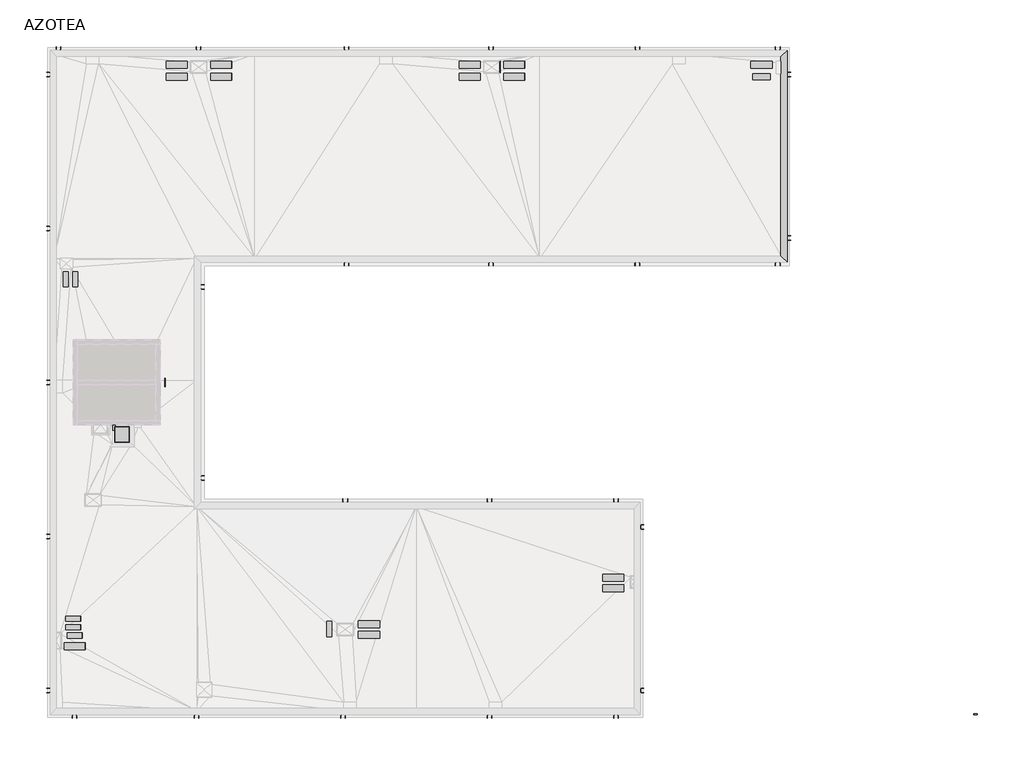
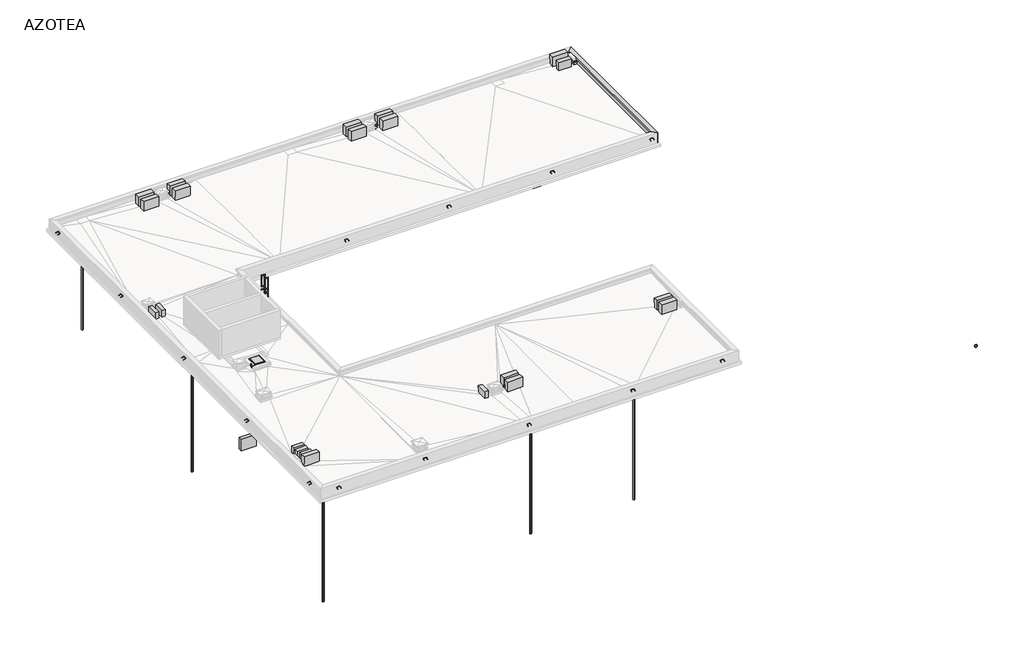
# One storey, part 6 of 6: 31 light fixtures, 25 proxies, 7 pipe segments, 5 beams, 3 furniture elements.
"""IFC4 building model written with IfcOpenShell, lengths in millimetres."""

from ifc_helpers import new_model, si_unit, point, frame, frame_2d, origin, place, context, project, spatial, circle_curve, trimmed, segment, composite_curve, outline, extrude, faceted_brep, transform, mapped, element, save
from components import electrical_equipment_c3a30a10, aa_unidad_exterior_12_18_24_v2_12000btu_c82194b8, aa_unidad_exterior_12_18_24_v2_18000btu_77353a8c, aa_unidad_exterior_12_18_24_v2_24000btu_2b071aac, pca1_20x80x15_228724ed, tc_50x70x12_88f3f4f6, tg_100x80x25_6bbc99c6, furniture_71a9488f, furniture_b6540da9, furniture_ba2fe2c0, light_fixture_f36965a0, light_fixture_92817a54, l209_cara_l209_cara_4ba3335d

model = new_model("IFC4")

# Units and contexts
model_context = context("Model", 3, world=origin())
ifc_project = project(units=[si_unit("LENGTHUNIT", "METRE", prefix="MILLI")], contexts=[model_context])

# Site, building, storey
site = spatial("IfcSite", under=ifc_project)
building = spatial("IfcBuilding", under=site)
storey = spatial("IfcBuildingStorey", under=building, Name="AZOTEA", Elevation=6570.0)

# Beams
placement = place(None, origin())
element("IfcBeam", 1, ObjectType="ARES-I-HA-Viga con aleta-PET : Viga pretil-20x90-aleta10x10cm-PET", at=placement, inside=storey, context=model_context, shape_type="Brep", body=[
    faceted_brep([(37618.7173693, 31350.2304035, 7210.0), (37618.7173693, 21890.2304035, 7210.0), (37608.7173693, 21900.2304035, 7220.0), (37608.7173693, 31340.2304035, 7220.0), (37598.7173693, 21910.2304035, 7210.0), (37598.7173693, 31330.2304035, 7210.0), (37588.7173693, 21920.2304035, 7210.0), (37588.7173693, 30500.2304035, 7210.0), (37588.7173693, 31100.2304035, 7210.0), (37588.7173693, 31320.2304035, 7210.0), (37588.7173693, 21920.2304035, 7310.0), (37588.7173693, 30500.2304035, 7310.0), (37588.7173693, 31100.2304035, 7310.0), (37588.7173693, 31320.2304035, 7310.0), (37888.7173693, 21620.2304035, 7310.0), (37888.7173693, 31620.2304035, 7310.0), (37888.7173693, 21620.2304035, 6570.0), (37888.7173693, 21620.2304035, 6410.0), (37888.7173693, 21820.2304035, 6410.0), (37888.7173693, 24720.2304035, 6410.0), (37888.7173693, 25320.2304035, 6410.0), (37888.7173693, 31020.2304035, 6410.0), (37888.7173693, 31620.2304035, 6410.0), (37888.7173693, 31620.2304035, 6570.0), (37688.7173693, 21820.2304035, 6410.0), (37688.7173693, 24720.2304035, 6410.0), (37688.7173693, 24920.2304035, 6410.0), (37688.7173693, 25320.2304035, 6410.0), (37688.7173693, 30580.2304035, 6410.0), (37688.7173693, 30700.2304035, 6410.0), (37688.7173693, 30802.5304035, 6410.0), (37688.7173693, 30920.2304035, 6410.0), (37688.7173693, 31020.2304035, 6410.0), (37688.7173693, 31420.2304035, 6410.0), (37688.7173693, 21820.2304035, 7210.0), (37688.7173693, 31420.2304035, 7210.0), (37688.7173693, 31420.2304035, 6570.0), (37688.7173693, 21820.2304035, 6570.0)], [[[0, 1, 2, 3]], [[3, 2, 4, 5]], [[5, 4, 6, 7, 8, 9]], [[9, 8, 7, 6, 10, 11, 12, 13]], [[13, 12, 11, 10, 14, 15]], [[15, 14, 16, 17, 18, 19, 20, 21, 22, 23]], [[22, 21, 20, 19, 18, 17, 24, 25, 26, 27, 28, 29, 30, 31, 32, 33]], [[34, 35, 36, 33, 32, 31, 30, 29, 28, 27, 26, 25, 24, 37]], [[1, 0, 35, 34]], [[0, 3, 5, 9, 13, 15, 23, 22, 33, 36, 35]], [[1, 34, 37, 24, 17, 16, 14, 10, 6, 4, 2]]]),
])
element("IfcBeam", 2, ObjectType="ARES-I-HA-Viga con aleta-PET : Viga pretil-12x66cm-aleta7x7cm-PET", at=placement, inside=storey, context=model_context, shape_type="Brep", body=[
    faceted_brep([(24348.7173694, 30560.2304035, 7000.0), (24348.7173694, 31080.2304035, 7000.0), (24358.7173694, 31090.2304035, 7010.0), (24358.7173694, 30550.2304035, 7010.0), (24368.7173694, 31100.2304035, 7000.0), (24368.7173694, 30540.2304035, 7000.0), (24378.7173694, 31110.2304035, 7000.0), (24378.7173694, 30530.2304035, 7000.0), (24378.7173694, 31110.2304035, 7070.0), (24378.7173694, 30530.2304035, 7070.0), (24188.7173694, 30920.2304035, 7070.0), (24188.7173694, 30720.2304035, 7070.0), (24188.7173694, 30920.2304035, 6410.0), (24188.7173694, 30720.2304035, 6410.0), (24308.7173694, 31040.2304035, 6410.0), (24308.7173694, 30600.2304035, 6410.0), (24308.7173694, 31040.2304035, 6570.0), (24308.7173694, 31040.2304035, 7000.0), (24308.7173694, 30600.2304035, 7000.0), (24308.7173694, 30600.2304035, 6570.0)], [[[0, 1, 2, 3]], [[3, 2, 4, 5]], [[5, 4, 6, 7]], [[7, 6, 8, 9]], [[9, 8, 10, 11]], [[11, 10, 12, 13]], [[13, 12, 14, 15]], [[15, 14, 16, 17, 18, 19]], [[1, 0, 18, 17]], [[0, 3, 5, 7, 9, 11, 13, 15, 19, 18]], [[1, 17, 16, 14, 12, 10, 8, 6, 4, 2]]]),
])
element("IfcBeam", 3, ObjectType="ARES-I-HA-Viga con aleta-PET : Viga pretil-12x66cm-aleta7x7cm-PET", at=placement, inside=storey, context=model_context, shape_type="Brep", body=[
    faceted_brep([(37688.7173693, 30540.2304035, 7000.0), (37688.7173693, 30530.2304035, 7010.0), (37421.0173693, 30530.2304035, 7010.0), (37431.0173693, 30540.2304035, 7000.0), (37688.7173693, 30520.2304035, 7000.0), (37411.0173693, 30520.2304035, 7000.0), (37688.7173693, 30510.2304035, 7000.0), (37401.0173693, 30510.2304035, 7000.0), (37688.7173693, 30510.2304035, 7070.0), (37401.0173693, 30510.2304035, 7070.0), (37688.7173693, 30700.2304035, 7070.0), (37591.0173693, 30700.2304035, 7070.0), (37688.7173693, 30700.2304035, 6410.0), (37591.0173693, 30700.2304035, 6410.0), (37688.7173693, 30580.2304035, 6410.0), (37471.0173693, 30580.2304035, 6410.0), (37688.7173693, 30580.2304035, 6570.0), (37688.7173693, 30580.2304035, 7000.0), (37471.0173693, 30580.2304035, 7000.0), (37471.0173693, 30580.2304035, 6570.0)], [[[0, 1, 2, 3]], [[1, 4, 5, 2]], [[4, 6, 7, 5]], [[6, 8, 9, 7]], [[8, 10, 11, 9]], [[10, 12, 13, 11]], [[12, 14, 15, 13]], [[15, 14, 16, 17, 18, 19]], [[17, 0, 3, 18]], [[1, 0, 17, 16, 14, 12, 10, 8, 6, 4]], [[3, 2, 5, 7, 9, 11, 13, 15, 19, 18]]]),
])
element("IfcBeam", 4, ObjectType="ARES-I-HA-Viga con aleta-PET : Viga pretil-12x66cm-aleta7x7cm-PET", at=placement, inside=storey, context=model_context, shape_type="Brep", body=[
    faceted_brep([(37431.0173693, 31060.2304035, 7000.0), (37431.0173693, 30540.2304035, 7000.0), (37421.0173693, 30530.2304035, 7010.0), (37421.0173693, 31070.2304035, 7010.0), (37411.0173693, 30520.2304035, 7000.0), (37411.0173693, 31080.2304035, 7000.0), (37401.0173693, 30510.2304035, 7000.0), (37401.0173693, 31090.2304035, 7000.0), (37401.0173693, 30510.2304035, 7070.0), (37401.0173693, 31090.2304035, 7070.0), (37591.0173693, 30700.2304035, 7070.0), (37591.0173693, 30900.2304035, 7070.0), (37591.0173693, 30700.2304035, 6410.0), (37591.0173693, 30900.2304035, 6410.0), (37471.0173693, 30580.2304035, 6410.0), (37471.0173693, 30920.2304035, 6410.0), (37571.0173693, 30920.2304035, 6410.0), (37471.0173693, 30580.2304035, 7000.0), (37471.0173693, 31020.2304035, 7000.0), (37471.0173693, 31020.2304035, 6570.0), (37471.0173693, 30920.2304035, 6570.0), (37471.0173693, 30580.2304035, 6570.0), (37571.0173693, 30920.2304035, 6570.0)], [[[0, 1, 2, 3]], [[3, 2, 4, 5]], [[5, 4, 6, 7]], [[7, 6, 8, 9]], [[9, 8, 10, 11]], [[11, 10, 12, 13]], [[13, 12, 14, 15, 16]], [[17, 18, 19, 20, 15, 14, 21]], [[1, 0, 18, 17]], [[0, 3, 5, 7, 9, 11, 13, 16, 22, 19, 18]], [[1, 17, 21, 14, 12, 10, 8, 6, 4, 2]], [[22, 20, 19]], [[20, 22, 16, 15]]]),
])
element("IfcBeam", 5, ObjectType="ARES-I-HA-Viga con aleta-PET : Viga pretil-12x66cm-aleta7x7cm-PET", at=placement, inside=storey, context=model_context, shape_type="Brep", body=[
    faceted_brep([(37688.7173693, 31070.2304035, 7010.0), (37688.7173693, 31060.2304035, 7000.0), (37431.0173693, 31060.2304035, 7000.0), (37421.0173693, 31070.2304035, 7010.0), (37688.7173693, 31080.2304035, 7000.0), (37411.0173693, 31080.2304035, 7000.0), (37688.7173693, 31090.2304035, 7000.0), (37401.0173693, 31090.2304035, 7000.0), (37688.7173693, 31090.2304035, 7070.0), (37401.0173693, 31090.2304035, 7070.0), (37688.7173693, 30802.5304035, 7070.0), (37591.0173693, 30900.2304035, 7070.0), (37688.7173693, 30802.5304035, 6410.0), (37591.0173693, 30900.2304035, 6410.0), (37571.0173693, 30920.2304035, 6410.0), (37688.7173693, 30920.2304035, 6410.0), (37471.0173693, 31020.2304035, 7000.0), (37688.7173693, 31020.2304035, 7000.0), (37688.7173693, 31020.2304035, 6570.0), (37471.0173693, 31020.2304035, 6570.0), (37688.7173693, 30920.2304035, 6570.0), (37571.0173693, 30920.2304035, 6570.0)], [[[0, 1, 2, 3]], [[4, 0, 3, 5]], [[6, 4, 5, 7]], [[8, 6, 7, 9]], [[10, 8, 9, 11]], [[12, 13, 14, 15]], [[16, 17, 18, 19]], [[1, 17, 16, 2]], [[1, 0, 4, 6, 8, 10, 12, 15, 20, 18, 17]], [[20, 21, 19, 18]], [[21, 20, 15, 14]], [[2, 16, 19, 21, 14, 13, 12, 10, 11, 9, 7, 5, 3]]]),
])

# Proxies
electrical_equipment_shape = electrical_equipment_c3a30a10(model_context)
element("IfcBuildingElementProxy", 6, Name="Extractor Decor : Extractor Decor", ObjectType="Extractor Decor : Extractor Decor", at=placement, inside=storey, context=model_context, shape_type="MappedRepresentation", body=[
    mapped(electrical_equipment_shape, transform((5313.7212045, 10435.2304035, 6410.0), x_axis=(1.0, 0.0, 0.0), y_axis=(0.0, -1.0, 0.0), z_axis=(0.0, 0.0, -1.0))),
])
aa_unidad_exterior_12_18_24_v2_12000btu_shape = aa_unidad_exterior_12_18_24_v2_12000btu_c82194b8(model_context)
element("IfcBuildingElementProxy", 7, Name="AA Unidad exterior 12-18-24 V2 : 12000BTU", ObjectType="AA Unidad exterior 12-18-24 V2 : 12000BTU", at=placement, inside=storey, context=model_context, shape_type="MappedRepresentation", body=[
    mapped(aa_unidad_exterior_12_18_24_v2_12000btu_shape, transform((3922.4282276, 20835.2304035, 6779.1723189), x_axis=(0.0, 1.0, 0.0), y_axis=(-0.9999761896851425, 0.0, -0.006900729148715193), z_axis=(-0.006900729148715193, 0.0, 0.9999761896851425))),
])
element("IfcBuildingElementProxy", 8, Name="AA Unidad exterior 12-18-24 V2 : 12000BTU", ObjectType="AA Unidad exterior 12-18-24 V2 : 12000BTU", at=placement, inside=storey, context=model_context, shape_type="MappedRepresentation", body=[
    mapped(aa_unidad_exterior_12_18_24_v2_12000btu_shape, transform((4369.143222, 20835.2304035, 6782.2550515), x_axis=(0.0, 1.0, 0.0), y_axis=(-0.9999761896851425, 0.0, -0.006900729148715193), z_axis=(-0.006900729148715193, 0.0, 0.9999761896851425))),
])
element("IfcBuildingElementProxy", 9, Name="AA Unidad exterior 12-18-24 V2 : 12000BTU", ObjectType="AA Unidad exterior 12-18-24 V2 : 12000BTU", at=placement, inside=storey, context=model_context, shape_type="MappedRepresentation", body=[
    mapped(aa_unidad_exterior_12_18_24_v2_12000btu_shape, transform((4290.4608176, 4850.2304035, 6781.7120726), x_axis=(0.9999761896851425, 0.0, 0.006900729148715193), y_axis=(0.0, 0.9999999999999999, 0.0), z_axis=(-0.006900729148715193, 0.0, 0.9999761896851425))),
])
element("IfcBuildingElementProxy", 10, Name="AA Unidad exterior 12-18-24 V2 : 12000BTU", ObjectType="AA Unidad exterior 12-18-24 V2 : 12000BTU", at=placement, inside=storey, context=model_context, shape_type="MappedRepresentation", body=[
    mapped(aa_unidad_exterior_12_18_24_v2_12000btu_shape, transform((4290.4540895, 4450.2304035, 6781.7120262), x_axis=(0.9999761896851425, 0.0, 0.006900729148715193), y_axis=(0.0, 0.9999999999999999, 0.0), z_axis=(-0.006900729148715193, 0.0, 0.9999761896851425))),
])
element("IfcBuildingElementProxy", 11, Name="AA Unidad exterior 12-18-24 V2 : 12000BTU", ObjectType="AA Unidad exterior 12-18-24 V2 : 12000BTU", at=placement, inside=storey, context=model_context, shape_type="MappedRepresentation", body=[
    mapped(aa_unidad_exterior_12_18_24_v2_12000btu_shape, transform((4356.7431505, 4055.2304035, 6782.16948), x_axis=(0.9999761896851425, 0.0, 0.006900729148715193), y_axis=(0.0, 0.9999999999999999, 0.0), z_axis=(-0.006900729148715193, 0.0, 0.9999761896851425))),
])
element("IfcBuildingElementProxy", 12, Name="AA Unidad exterior 12-18-24 V2 : 12000BTU", ObjectType="AA Unidad exterior 12-18-24 V2 : 12000BTU", at=placement, inside=storey, context=model_context, shape_type="MappedRepresentation", body=[
    mapped(aa_unidad_exterior_12_18_24_v2_12000btu_shape, transform((16334.0540398, 4360.2304035, 6864.8236264), x_axis=(0.0, 1.0, 0.0), y_axis=(-0.9999761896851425, 0.0, -0.006900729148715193), z_axis=(-0.006900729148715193, 0.0, 0.9999761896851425))),
])
aa_unidad_exterior_12_18_24_v2_18000btu_shape = aa_unidad_exterior_12_18_24_v2_18000btu_77353a8c(model_context)
element("IfcBuildingElementProxy", 13, Name="AA Unidad exterior 12-18-24 V2 : 18000BTU", ObjectType="AA Unidad exterior 12-18-24 V2 : 18000BTU", at=placement, inside=storey, context=model_context, shape_type="MappedRepresentation", body=[
    mapped(aa_unidad_exterior_12_18_24_v2_18000btu_shape, transform((36691.2017529, 30360.2304035, 7005.3061339), x_axis=(0.9999761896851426, 0.0, 0.006900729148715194), y_axis=(0.0, 1.0, 0.0), z_axis=(-0.006900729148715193, 0.0, 0.9999761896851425))),
])
aa_unidad_exterior_12_18_24_v2_24000btu_shape = aa_unidad_exterior_12_18_24_v2_24000btu_2b071aac(model_context)
element("IfcBuildingElementProxy", 14, Name="AA Unidad exterior 12-18-24 V2 : 24000BTU", ObjectType="AA Unidad exterior 12-18-24 V2 : 24000BTU", at=placement, inside=storey, context=model_context, shape_type="MappedRepresentation", body=[
    mapped(aa_unidad_exterior_12_18_24_v2_24000btu_shape, transform((9152.1890402, 30920.2304035, 6815.0892032), x_axis=(0.9999765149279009, 0.0, 0.006853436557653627), y_axis=(0.0, 1.0000000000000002, 0.0), z_axis=(-0.006853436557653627, 0.0, 0.999976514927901))),
])
element("IfcBuildingElementProxy", 15, Name="AA Unidad exterior 12-18-24 V2 : 24000BTU", ObjectType="AA Unidad exterior 12-18-24 V2 : 24000BTU", at=placement, inside=storey, context=model_context, shape_type="MappedRepresentation", body=[
    mapped(aa_unidad_exterior_12_18_24_v2_24000btu_shape, transform((9152.1860635, 30360.2304035, 6815.2623206), x_axis=(0.9999761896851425, 0.0, 0.006900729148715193), y_axis=(0.0, 0.9999999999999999, 0.0), z_axis=(-0.006900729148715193, 0.0, 0.9999761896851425))),
])
element("IfcBuildingElementProxy", 16, Name="AA Unidad exterior 12-18-24 V2 : 24000BTU", ObjectType="AA Unidad exterior 12-18-24 V2 : 24000BTU", at=placement, inside=storey, context=model_context, shape_type="MappedRepresentation", body=[
    mapped(aa_unidad_exterior_12_18_24_v2_24000btu_shape, transform((11252.1360618, 30920.2304035, 6829.7538518), x_axis=(0.9999761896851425, 0.0, 0.006900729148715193), y_axis=(0.0, 0.9999999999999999, 0.0), z_axis=(-0.006900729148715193, 0.0, 0.9999761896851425))),
])
element("IfcBuildingElementProxy", 17, Name="AA Unidad exterior 12-18-24 V2 : 24000BTU", ObjectType="AA Unidad exterior 12-18-24 V2 : 24000BTU", at=placement, inside=storey, context=model_context, shape_type="MappedRepresentation", body=[
    mapped(aa_unidad_exterior_12_18_24_v2_24000btu_shape, transform((11252.1360618, 30360.2304035, 6829.7538518), x_axis=(0.9999761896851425, 0.0, 0.006900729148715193), y_axis=(0.0, 0.9999999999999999, 0.0), z_axis=(-0.006900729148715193, 0.0, 0.9999761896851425))),
])
element("IfcBuildingElementProxy", 18, Name="AA Unidad exterior 12-18-24 V2 : 24000BTU", ObjectType="AA Unidad exterior 12-18-24 V2 : 24000BTU", at=placement, inside=storey, context=model_context, shape_type="MappedRepresentation", body=[
    mapped(aa_unidad_exterior_12_18_24_v2_24000btu_shape, transform((22951.5289066, 30920.2304035, 6910.4901154), x_axis=(0.9999761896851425, 0.0, 0.006900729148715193), y_axis=(0.0, 0.9999999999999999, 0.0), z_axis=(-0.006900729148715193, 0.0, 0.9999761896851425))),
])
element("IfcBuildingElementProxy", 19, Name="AA Unidad exterior 12-18-24 V2 : 24000BTU", ObjectType="AA Unidad exterior 12-18-24 V2 : 24000BTU", at=placement, inside=storey, context=model_context, shape_type="MappedRepresentation", body=[
    mapped(aa_unidad_exterior_12_18_24_v2_24000btu_shape, transform((22951.5289066, 30360.2304035, 6910.4901154), x_axis=(0.9999761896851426, 0.0, 0.006900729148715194), y_axis=(0.0, 1.0, 0.0), z_axis=(-0.006900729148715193, 0.0, 0.9999761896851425))),
])
element("IfcBuildingElementProxy", 20, Name="AA Unidad exterior 12-18-24 V2 : 24000BTU", ObjectType="AA Unidad exterior 12-18-24 V2 : 24000BTU", at=placement, inside=storey, context=model_context, shape_type="MappedRepresentation", body=[
    mapped(aa_unidad_exterior_12_18_24_v2_24000btu_shape, transform((25051.478905, 30920.2304035, 6924.9816466), x_axis=(0.9999761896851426, 0.0, 0.006900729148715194), y_axis=(0.0, 1.0, 0.0), z_axis=(-0.006900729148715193, 0.0, 0.9999761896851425))),
])
element("IfcBuildingElementProxy", 21, Name="AA Unidad exterior 12-18-24 V2 : 24000BTU", ObjectType="AA Unidad exterior 12-18-24 V2 : 24000BTU", at=placement, inside=storey, context=model_context, shape_type="MappedRepresentation", body=[
    mapped(aa_unidad_exterior_12_18_24_v2_24000btu_shape, transform((25051.478905, 30360.2304035, 6924.9816466), x_axis=(0.9999761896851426, 0.0, 0.006900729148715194), y_axis=(0.0, 1.0, 0.0), z_axis=(-0.006900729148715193, 0.0, 0.9999761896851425))),
])
element("IfcBuildingElementProxy", 22, Name="AA Unidad exterior 12-18-24 V2 : 24000BTU", ObjectType="AA Unidad exterior 12-18-24 V2 : 24000BTU", at=placement, inside=storey, context=model_context, shape_type="MappedRepresentation", body=[
    mapped(aa_unidad_exterior_12_18_24_v2_24000btu_shape, transform((36691.2017529, 30920.2304035, 7005.3061339), x_axis=(0.9999761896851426, 0.0, 0.006900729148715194), y_axis=(0.0, 1.0, 0.0), z_axis=(-0.006900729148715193, 0.0, 0.9999761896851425))),
])
element("IfcBuildingElementProxy", 23, Name="AA Unidad exterior 12-18-24 V2 : 24000BTU", ObjectType="AA Unidad exterior 12-18-24 V2 : 24000BTU", at=placement, inside=storey, context=model_context, shape_type="MappedRepresentation", body=[
    mapped(aa_unidad_exterior_12_18_24_v2_24000btu_shape, transform((4356.7431505, 3558.5126743, 6782.16948), x_axis=(0.9999761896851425, 0.0, 0.006900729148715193), y_axis=(0.0, 0.9999999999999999, 0.0), z_axis=(-0.006900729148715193, 0.0, 0.9999761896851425))),
])
element("IfcBuildingElementProxy", 24, Name="AA Unidad exterior 12-18-24 V2 : 24000BTU", ObjectType="AA Unidad exterior 12-18-24 V2 : 24000BTU", at=placement, inside=storey, context=model_context, shape_type="MappedRepresentation", body=[
    mapped(aa_unidad_exterior_12_18_24_v2_24000btu_shape, transform((18208.4562649, 4590.2304035, 6877.7586764), x_axis=(0.9999761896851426, 0.0, 0.006900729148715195), y_axis=(0.0, 1.0, 0.0), z_axis=(-0.006900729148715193, 0.0, 0.9999761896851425))),
])
element("IfcBuildingElementProxy", 25, Name="AA Unidad exterior 12-18-24 V2 : 24000BTU", ObjectType="AA Unidad exterior 12-18-24 V2 : 24000BTU", at=placement, inside=storey, context=model_context, shape_type="MappedRepresentation", body=[
    mapped(aa_unidad_exterior_12_18_24_v2_24000btu_shape, transform((18208.4562649, 4093.5126743, 6877.7586764), x_axis=(0.9999761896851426, 0.0, 0.006900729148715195), y_axis=(0.0, 1.0, 0.0), z_axis=(-0.006900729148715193, 0.0, 0.9999761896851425))),
])
element("IfcBuildingElementProxy", 26, Name="AA Unidad exterior 12-18-24 V2 : 24000BTU", ObjectType="AA Unidad exterior 12-18-24 V2 : 24000BTU", at=placement, inside=storey, context=model_context, shape_type="MappedRepresentation", body=[
    mapped(aa_unidad_exterior_12_18_24_v2_24000btu_shape, transform((29705.3567157, 6783.0188734, 6957.0975616), x_axis=(0.9999761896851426, 0.0, 0.006900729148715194), y_axis=(0.0, 1.0, 0.0), z_axis=(-0.006900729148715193, 0.0, 0.9999761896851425))),
])
element("IfcBuildingElementProxy", 27, Name="AA Unidad exterior 12-18-24 V2 : 24000BTU", ObjectType="AA Unidad exterior 12-18-24 V2 : 24000BTU", at=placement, inside=storey, context=model_context, shape_type="MappedRepresentation", body=[
    mapped(aa_unidad_exterior_12_18_24_v2_24000btu_shape, transform((29705.3567157, 6286.3011442, 6957.0975616), x_axis=(0.9999761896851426, 0.0, 0.006900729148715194), y_axis=(0.0, 1.0, 0.0), z_axis=(-0.006900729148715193, 0.0, 0.9999761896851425))),
])
pca1_20x80x15_shape = pca1_20x80x15_228724ed(model_context)
element("IfcBuildingElementProxy", 28, Name="TABLERO ELECTRICO DE SUPERFICIE : PCL 20x80x15", ObjectType="TABLERO ELECTRICO DE SUPERFICIE : PCL 20x80x15", at=placement, inside=storey, context=model_context, shape_type="MappedRepresentation", body=[
    mapped(pca1_20x80x15_shape, transform((15485.1227586, 7020.2304035, 5110.0), x_axis=(1.0, 0.0, 0.0), y_axis=(0.0, 0.0, 1.0), z_axis=(0.0, -1.0, 0.0))),
])
tc_50x70x12_shape = tc_50x70x12_88f3f4f6(model_context)
element("IfcBuildingElementProxy", 29, Name="TABLERO ELECTRICO DE SUPERFICIE : TC 50x70x12", ObjectType="TABLERO ELECTRICO DE SUPERFICIE : TC 50x70x12", at=placement, inside=storey, context=model_context, shape_type="MappedRepresentation", body=[
    mapped(tc_50x70x12_shape, transform((33560.2983999, 28040.2304035, 1800.0), x_axis=(-1.0, 0.0, 0.0), y_axis=(0.0, 0.0, 1.0), z_axis=(0.0, 1.0, 0.0))),
])
tg_100x80x25_shape = tg_100x80x25_6bbc99c6(model_context)
element("IfcBuildingElementProxy", 30, Name="TABLERO ELECTRICO DE SUPERFICIE : TG 100x80x25", ObjectType="TABLERO ELECTRICO DE SUPERFICIE : TG 100x80x25", at=placement, inside=storey, context=model_context, shape_type="MappedRepresentation", body=[
    mapped(tg_100x80x25_shape, transform((6137.6437762, 13970.2304035, 1800.0), x_axis=(1.0, 0.0, 0.0), y_axis=(0.0, 0.0, 1.0), z_axis=(0.0, -1.0, 0.0))),
])

# Furniture
furniture_shape = furniture_71a9488f(model_context)
element("IfcFurniture", 31, ObjectType="H10 Escotilla : H10 Escotilla", at=placement, inside=storey, context=model_context, shape_type="MappedRepresentation", body=[
    mapped(furniture_shape, transform((6574.4126343, 13525.2304035, 7160.0), x_axis=(1.0, 0.0, 0.0), y_axis=(0.0, 1.0, 0.0), z_axis=(0.0, 0.0, 1.0))),
])
furniture_2_shape = furniture_b6540da9(model_context)
element("IfcFurniture", 32, ObjectType="H09 Escalera tanque interior : H09 Escalera tanque interior", at=placement, inside=storey, context=model_context, shape_type="MappedRepresentation", body=[
    mapped(furniture_2_shape, transform((6574.4126343, 13970.2304035, 4334.7899079), x_axis=(1.0, 0.0, 0.0), y_axis=(0.0, 0.0, 1.0), z_axis=(0.0, -1.0, 0.0))),
])
furniture_3_shape = furniture_ba2fe2c0(model_context)
element("IfcFurniture", 33, ObjectType="H11 Escalera tanque exterior : H11 Escalera tanque exterior", at=placement, inside=storey, context=model_context, shape_type="MappedRepresentation", body=[
    mapped(furniture_3_shape, transform((8374.4126343, 15970.2304035, 9939.481963), x_axis=(0.0, 1.0, 0.0), y_axis=(0.0, 0.0, 1.0), z_axis=(1.0, 0.0, 0.0))),
])

# Light fixtures
light_fixture_shape = light_fixture_f36965a0(model_context)
element("IfcLightFixture", 34, ObjectType="L558 Proyector : L558 Proyector", at=placement, inside=storey, context=model_context, shape_type="MappedRepresentation", body=[
    mapped(light_fixture_shape, transform((3578.5673693, 31620.2304035, 7070.0), x_axis=(1.0, 0.0, 0.0), y_axis=(0.0, 0.0, -1.0), z_axis=(0.0, 1.0, 0.0))),
])
element("IfcLightFixture", 35, ObjectType="L558 Proyector : L558 Proyector", at=placement, inside=storey, context=model_context, shape_type="MappedRepresentation", body=[
    mapped(light_fixture_shape, transform((10178.5673693, 31620.2304035, 7070.0), x_axis=(1.0, 0.0, 0.0), y_axis=(0.0, 0.0, -1.0), z_axis=(0.0, 1.0, 0.0))),
])
element("IfcLightFixture", 36, ObjectType="L558 Proyector : L558 Proyector", at=placement, inside=storey, context=model_context, shape_type="MappedRepresentation", body=[
    mapped(light_fixture_shape, transform((17153.7173694, 31620.2304035, 7070.0), x_axis=(1.0, 0.0, 0.0), y_axis=(0.0, 0.0, -1.0), z_axis=(0.0, 1.0, 0.0))),
])
element("IfcLightFixture", 37, ObjectType="L558 Proyector : L558 Proyector", at=placement, inside=storey, context=model_context, shape_type="MappedRepresentation", body=[
    mapped(light_fixture_shape, transform((23953.7173694, 31620.2304035, 7070.0), x_axis=(1.0, 0.0, 0.0), y_axis=(0.0, 0.0, -1.0), z_axis=(0.0, 1.0, 0.0))),
])
element("IfcLightFixture", 38, ObjectType="L558 Proyector : L558 Proyector", at=placement, inside=storey, context=model_context, shape_type="MappedRepresentation", body=[
    mapped(light_fixture_shape, transform((30853.7173694, 31620.2304035, 7070.0), x_axis=(1.0, 0.0, 0.0), y_axis=(0.0, 0.0, -1.0), z_axis=(0.0, 1.0, 0.0))),
])
element("IfcLightFixture", 39, ObjectType="L558 Proyector : L558 Proyector", at=placement, inside=storey, context=model_context, shape_type="MappedRepresentation", body=[
    mapped(light_fixture_shape, transform((37453.7173694, 31620.2304035, 7070.0), x_axis=(1.0, 0.0, 0.0), y_axis=(0.0, 0.0, -1.0), z_axis=(0.0, 1.0, 0.0))),
])
element("IfcLightFixture", 40, ObjectType="L558 Proyector : L558 Proyector", at=placement, inside=storey, context=model_context, shape_type="MappedRepresentation", body=[
    mapped(light_fixture_shape, transform((3188.7173693, 30470.2304035, 7070.0), x_axis=(0.0, 1.0, 0.0), y_axis=(0.0, 0.0, -1.0), z_axis=(-1.0, 0.0, 0.0))),
])
element("IfcLightFixture", 41, ObjectType="L558 Proyector : L558 Proyector", at=placement, inside=storey, context=model_context, shape_type="MappedRepresentation", body=[
    mapped(light_fixture_shape, transform((3188.7173693, 15970.2304035, 7070.0), x_axis=(0.0, 1.0, 0.0), y_axis=(0.0, 0.0, -1.0), z_axis=(-1.0, 0.0, 0.0))),
])
element("IfcLightFixture", 42, ObjectType="L558 Proyector : L558 Proyector", at=placement, inside=storey, context=model_context, shape_type="MappedRepresentation", body=[
    mapped(light_fixture_shape, transform((3188.7173693, 1470.2304035, 7070.0), x_axis=(0.0, 1.0, 0.0), y_axis=(0.0, 0.0, -1.0), z_axis=(-1.0, 0.0, 0.0))),
])
element("IfcLightFixture", 43, ObjectType="L558 Proyector : L558 Proyector", at=placement, inside=storey, context=model_context, shape_type="MappedRepresentation", body=[
    mapped(light_fixture_shape, transform((3188.7173693, 23220.2304035, 7070.0), x_axis=(0.0, 1.0, 0.0), y_axis=(0.0, 0.0, -1.0), z_axis=(-1.0, 0.0, 0.0))),
])
element("IfcLightFixture", 44, ObjectType="L558 Proyector : L558 Proyector", at=placement, inside=storey, context=model_context, shape_type="MappedRepresentation", body=[
    mapped(light_fixture_shape, transform((4338.7173693, 320.2304035, 7070.0), x_axis=(-1.0, 0.0, 0.0), y_axis=(0.0, 0.0, -1.0), z_axis=(0.0, -1.0, 0.0))),
])
element("IfcLightFixture", 45, ObjectType="L558 Proyector : L558 Proyector", at=placement, inside=storey, context=model_context, shape_type="MappedRepresentation", body=[
    mapped(light_fixture_shape, transform((10088.7173693, 320.2304035, 7070.0), x_axis=(-1.0, 0.0, 0.0), y_axis=(0.0, 0.0, -1.0), z_axis=(0.0, -1.0, 0.0))),
])
element("IfcLightFixture", 46, ObjectType="L558 Proyector : L558 Proyector", at=placement, inside=storey, context=model_context, shape_type="MappedRepresentation", body=[
    mapped(light_fixture_shape, transform((16988.7173694, 320.2304035, 7070.0), x_axis=(-1.0, 0.0, 0.0), y_axis=(0.0, 0.0, -1.0), z_axis=(0.0, -1.0, 0.0))),
])
element("IfcLightFixture", 47, ObjectType="L558 Proyector : L558 Proyector", at=placement, inside=storey, context=model_context, shape_type="MappedRepresentation", body=[
    mapped(light_fixture_shape, transform((30988.7173693, 1470.2304035, 7070.0), x_axis=(0.0, -1.0, 0.0), y_axis=(0.0, 0.0, -1.0), z_axis=(1.0, 0.0, 0.0))),
])
element("IfcLightFixture", 48, ObjectType="L558 Proyector : L558 Proyector", at=placement, inside=storey, context=model_context, shape_type="MappedRepresentation", body=[
    mapped(light_fixture_shape, transform((30988.7173693, 9170.2304035, 7070.0), x_axis=(0.0, -1.0, 0.0), y_axis=(0.0, 0.0, -1.0), z_axis=(1.0, 0.0, 0.0))),
])
element("IfcLightFixture", 49, ObjectType="L558 Proyector : L558 Proyector", at=placement, inside=storey, context=model_context, shape_type="MappedRepresentation", body=[
    mapped(light_fixture_shape, transform((10288.7173693, 11470.2304035, 7070.0), x_axis=(0.0, -1.0, 0.0), y_axis=(0.0, 0.0, -1.0), z_axis=(1.0, 0.0, 0.0))),
])
element("IfcLightFixture", 50, ObjectType="L558 Proyector : L558 Proyector", at=placement, inside=storey, context=model_context, shape_type="MappedRepresentation", body=[
    mapped(light_fixture_shape, transform((10288.7173693, 20470.2304035, 7070.0), x_axis=(0.0, -1.0, 0.0), y_axis=(0.0, 0.0, -1.0), z_axis=(1.0, 0.0, 0.0))),
])
element("IfcLightFixture", 51, ObjectType="L558 Proyector : L558 Proyector", at=placement, inside=storey, context=model_context, shape_type="MappedRepresentation", body=[
    mapped(light_fixture_shape, transform((37888.7173693, 22770.2304035, 7070.0), x_axis=(0.0, -1.0, 0.0), y_axis=(0.0, 0.0, -1.0), z_axis=(1.0, 0.0, 0.0))),
])
element("IfcLightFixture", 52, ObjectType="L558 Proyector : L558 Proyector", at=placement, inside=storey, context=model_context, shape_type="MappedRepresentation", body=[
    mapped(light_fixture_shape, transform((37888.7173693, 30470.2304035, 7070.0), x_axis=(0.0, -1.0, 0.0), y_axis=(0.0, 0.0, -1.0), z_axis=(1.0, 0.0, 0.0))),
])
element("IfcLightFixture", 53, ObjectType="L558 Proyector : L558 Proyector", at=placement, inside=storey, context=model_context, shape_type="MappedRepresentation", body=[
    mapped(light_fixture_shape, transform((29838.7173693, 10320.2304035, 7070.0), x_axis=(1.0, 0.0, 0.0), y_axis=(0.0, 0.0, -1.0), z_axis=(0.0, 1.0, 0.0))),
])
element("IfcLightFixture", 54, ObjectType="L558 Proyector : L558 Proyector", at=placement, inside=storey, context=model_context, shape_type="MappedRepresentation", body=[
    mapped(light_fixture_shape, transform((23888.7173694, 10320.2304035, 7070.0), x_axis=(1.0, 0.0, 0.0), y_axis=(0.0, 0.0, -1.0), z_axis=(0.0, 1.0, 0.0))),
])
element("IfcLightFixture", 55, ObjectType="L558 Proyector : L558 Proyector", at=placement, inside=storey, context=model_context, shape_type="MappedRepresentation", body=[
    mapped(light_fixture_shape, transform((17088.7173694, 10320.2304035, 7070.0), x_axis=(1.0, 0.0, 0.0), y_axis=(0.0, 0.0, -1.0), z_axis=(0.0, 1.0, 0.0))),
])
element("IfcLightFixture", 56, ObjectType="L558 Proyector : L558 Proyector", at=placement, inside=storey, context=model_context, shape_type="MappedRepresentation", body=[
    mapped(light_fixture_shape, transform((37453.7173694, 21620.2304035, 7070.0), x_axis=(-1.0, 0.0, 0.0), y_axis=(0.0, 0.0, -1.0), z_axis=(0.0, -1.0, 0.0))),
])
element("IfcLightFixture", 57, ObjectType="L558 Proyector : L558 Proyector", at=placement, inside=storey, context=model_context, shape_type="MappedRepresentation", body=[
    mapped(light_fixture_shape, transform((30838.7173693, 21620.2304035, 7070.0), x_axis=(-1.0, 0.0, 0.0), y_axis=(0.0, 0.0, -1.0), z_axis=(0.0, -1.0, 0.0))),
])
element("IfcLightFixture", 58, ObjectType="L558 Proyector : L558 Proyector", at=placement, inside=storey, context=model_context, shape_type="MappedRepresentation", body=[
    mapped(light_fixture_shape, transform((23953.7173694, 21620.2304035, 7070.0), x_axis=(-1.0, 0.0, 0.0), y_axis=(0.0, 0.0, -1.0), z_axis=(0.0, -1.0, 0.0))),
])
element("IfcLightFixture", 59, ObjectType="L558 Proyector : L558 Proyector", at=placement, inside=storey, context=model_context, shape_type="MappedRepresentation", body=[
    mapped(light_fixture_shape, transform((17153.7173694, 21620.2304035, 7070.0), x_axis=(-1.0, 0.0, 0.0), y_axis=(0.0, 0.0, -1.0), z_axis=(0.0, -1.0, 0.0))),
])
light_fixture_2_shape = light_fixture_92817a54(model_context)
element("IfcLightFixture", 60, ObjectType="L558 Proyector : L558 Proyector", at=placement, inside=storey, context=model_context, shape_type="MappedRepresentation", body=[
    mapped(light_fixture_2_shape, transform((3188.7173693, 8720.2304035, 7070.0), x_axis=(0.0, -1.0, 0.0), y_axis=(0.0, 0.0, 1.0), z_axis=(-1.0, 0.0, 0.0))),
])
element("IfcLightFixture", 61, ObjectType="L558 Proyector : L558 Proyector", at=placement, inside=storey, context=model_context, shape_type="MappedRepresentation", body=[
    mapped(light_fixture_2_shape, transform((29838.7173693, 320.2304035, 7070.0), x_axis=(1.0, 0.0, 0.0), y_axis=(0.0, 0.0, 1.0), z_axis=(0.0, -1.0, 0.0))),
])
element("IfcLightFixture", 62, ObjectType="L558 Proyector : L558 Proyector", at=placement, inside=storey, context=model_context, shape_type="MappedRepresentation", body=[
    mapped(light_fixture_2_shape, transform((23888.7173694, 320.2304035, 7070.0), x_axis=(1.0, 0.0, 0.0), y_axis=(0.0, 0.0, 1.0), z_axis=(0.0, -1.0, 0.0))),
])
l209_cara_l209_cara_shape = l209_cara_l209_cara_4ba3335d(model_context)
element("IfcLightFixture", 63, ObjectType="L209 Cara : L209 Cara", at=placement, inside=storey, context=model_context, shape_type="MappedRepresentation", body=[
    mapped(l209_cara_l209_cara_shape, transform((46768.7173693, 320.2304035, 2100.0), x_axis=(-1.0, 0.0, 0.0), y_axis=(0.0, 0.0, 1.0), z_axis=(0.0, 1.0, 0.0))),
])
element("IfcLightFixture", 64, ObjectType="L209 Cara : L209 Cara", at=placement, inside=storey, context=model_context, shape_type="MappedRepresentation", body=[
    mapped(l209_cara_l209_cara_shape, transform((6318.7173694, 14170.2304035, 6317.7273148), x_axis=(-1.0, 0.0, 0.0), y_axis=(0.0, 0.0, 1.0), z_axis=(0.0, 1.0, 0.0))),
])

# Pipe segments
element("IfcPipeSegment", 65, ObjectType="Pluviales Acero Inox.", at=placement, inside=storey, context=model_context, shape_type="SweptSolid", body=[
    extrude(outline(composite_curve([segment(trimmed(circle_curve(frame_2d((18997.5169396, 31272.7185305)), 57.15), [point((18940.3669396, 31272.7185305))], [point((18997.5169396, 31329.8685305))], False, "CARTESIAN"), True, "CONTINUOUS"), segment(trimmed(circle_curve(frame_2d((18997.5169396, 31272.7185305)), 57.15), [point((18997.5169396, 31329.8685305))], [point((19054.6669396, 31272.7185305))], False, "CARTESIAN"), True, "CONTINUOUS"), segment(trimmed(circle_curve(frame_2d((18997.5169396, 31272.7185305)), 57.15), [point((19054.6669396, 31272.7185305))], [point((18997.5169396, 31215.5685305))], False, "CARTESIAN"), True, "CONTINUOUS"), segment(trimmed(circle_curve(frame_2d((18997.5169396, 31272.7185305)), 57.15), [point((18997.5169396, 31215.5685305))], [point((18940.3669396, 31272.7185305))], False, "CARTESIAN"), True, "CONTINUOUS")], self_intersect=False)), frame((0.0, 0.0, -930.0), z_axis=(0.0, 0.0, 1.0), x_axis=(1.0, 0.0, 0.0)), (0.0, 0.0, 1.0), 7540.0),
])
element("IfcPipeSegment", 66, ObjectType="Pluviales Acero Inox.", at=placement, inside=storey, context=model_context, shape_type="SweptSolid", body=[
    extrude(outline(composite_curve([segment(trimmed(circle_curve(frame_2d((32788.756084, 31272.1976272)), 57.15), [point((32731.606084, 31272.1976272))], [point((32788.756084, 31329.3476272))], False, "CARTESIAN"), True, "CONTINUOUS"), segment(trimmed(circle_curve(frame_2d((32788.756084, 31272.1976272)), 57.15), [point((32788.756084, 31329.3476272))], [point((32845.906084, 31272.1976272))], False, "CARTESIAN"), True, "CONTINUOUS"), segment(trimmed(circle_curve(frame_2d((32788.756084, 31272.1976272)), 57.15), [point((32845.906084, 31272.1976272))], [point((32788.756084, 31215.0476272))], False, "CARTESIAN"), True, "CONTINUOUS"), segment(trimmed(circle_curve(frame_2d((32788.756084, 31272.1976272)), 57.15), [point((32788.756084, 31215.0476272))], [point((32731.606084, 31272.1976272))], False, "CARTESIAN"), True, "CONTINUOUS")], self_intersect=False)), frame((0.0, 0.0, -930.0), z_axis=(0.0, 0.0, 1.0), x_axis=(1.0, 0.0, 0.0)), (0.0, 0.0, 1.0), 7500.0),
])
element("IfcPipeSegment", 67, ObjectType="Pluviales Acero Inox.", at=placement, inside=storey, context=model_context, shape_type="SweptSolid", body=[
    extrude(outline(composite_curve([segment(trimmed(circle_curve(frame_2d((5193.7563809, 31272.1210634)), 57.15), [point((5136.6063809, 31272.1210634))], [point((5193.7563809, 31329.2710634))], False, "CARTESIAN"), True, "CONTINUOUS"), segment(trimmed(circle_curve(frame_2d((5193.7563809, 31272.1210634)), 57.15), [point((5193.7563809, 31329.2710634))], [point((5250.9063809, 31272.1210634))], False, "CARTESIAN"), True, "CONTINUOUS"), segment(trimmed(circle_curve(frame_2d((5193.7563809, 31272.1210634)), 57.15), [point((5250.9063809, 31272.1210634))], [point((5193.7563809, 31214.9710634))], False, "CARTESIAN"), True, "CONTINUOUS"), segment(trimmed(circle_curve(frame_2d((5193.7563809, 31272.1210634)), 57.15), [point((5193.7563809, 31214.9710634))], [point((5136.6063809, 31272.1210634))], False, "CARTESIAN"), True, "CONTINUOUS")], self_intersect=False)), frame((0.0, 0.0, -930.0), z_axis=(0.0, 0.0, 1.0), x_axis=(1.0, 0.0, 0.0)), (0.0, 0.0, 1.0), 7500.0),
])
element("IfcPipeSegment", 68, ObjectType="Pluviales Acero Inox.", at=placement, inside=storey, context=model_context, shape_type="SweptSolid", body=[
    extrude(outline(composite_curve([segment(trimmed(circle_curve(frame_2d((17305.2881478, 607.0401088)), 57.15), [point((17248.1381478, 607.0401088))], [point((17305.2881478, 664.1901088))], False, "CARTESIAN"), True, "CONTINUOUS"), segment(trimmed(circle_curve(frame_2d((17305.2881478, 607.0401088)), 57.15), [point((17305.2881478, 664.1901088))], [point((17362.4381478, 607.0401088))], False, "CARTESIAN"), True, "CONTINUOUS"), segment(trimmed(circle_curve(frame_2d((17305.2881478, 607.0401088)), 57.15), [point((17362.4381478, 607.0401088))], [point((17305.2881478, 549.8901088))], False, "CARTESIAN"), True, "CONTINUOUS"), segment(trimmed(circle_curve(frame_2d((17305.2881478, 607.0401088)), 57.15), [point((17305.2881478, 549.8901088))], [point((17248.1381478, 607.0401088))], False, "CARTESIAN"), True, "CONTINUOUS")], self_intersect=False)), frame((0.0, 0.0, -930.0), z_axis=(0.0, 0.0, 1.0), x_axis=(1.0, 0.0, 0.0)), (0.0, 0.0, 1.0), 7500.0),
])
element("IfcPipeSegment", 69, ObjectType="Pluviales Acero Inox.", at=placement, inside=storey, context=model_context, shape_type="SweptSolid", body=[
    extrude(outline(composite_curve([segment(trimmed(circle_curve(frame_2d((3538.7173693, 668.0804035)), 57.15), [point((3481.5673693, 668.0804035))], [point((3538.7173693, 725.2304035))], False, "CARTESIAN"), True, "CONTINUOUS"), segment(trimmed(circle_curve(frame_2d((3538.7173693, 668.0804035)), 57.15), [point((3538.7173693, 725.2304035))], [point((3595.8673693, 668.0804035))], False, "CARTESIAN"), True, "CONTINUOUS"), segment(trimmed(circle_curve(frame_2d((3538.7173693, 668.0804035)), 57.15), [point((3595.8673693, 668.0804035))], [point((3538.7173693, 610.9304035))], False, "CARTESIAN"), True, "CONTINUOUS"), segment(trimmed(circle_curve(frame_2d((3538.7173693, 668.0804035)), 57.15), [point((3538.7173693, 610.9304035))], [point((3481.5673693, 668.0804035))], False, "CARTESIAN"), True, "CONTINUOUS")], self_intersect=False)), frame((0.0, 0.0, -930.0), z_axis=(0.0, 0.0, 1.0), x_axis=(1.0, 0.0, 0.0)), (0.0, 0.0, 1.0), 7500.0),
])
element("IfcPipeSegment", 70, ObjectType="Pluviales Acero Inox.", at=placement, inside=storey, context=model_context, shape_type="SweptSolid", body=[
    extrude(outline(composite_curve([segment(trimmed(circle_curve(frame_2d((3538.7173693, 15748.9804034)), 57.15), [point((3481.5673693, 15748.9804034))], [point((3538.7173693, 15806.1304034))], False, "CARTESIAN"), True, "CONTINUOUS"), segment(trimmed(circle_curve(frame_2d((3538.7173693, 15748.9804034)), 57.15), [point((3538.7173693, 15806.1304034))], [point((3595.8673693, 15748.9804034))], False, "CARTESIAN"), True, "CONTINUOUS"), segment(trimmed(circle_curve(frame_2d((3538.7173693, 15748.9804034)), 57.15), [point((3595.8673693, 15748.9804034))], [point((3538.7173693, 15691.8304034))], False, "CARTESIAN"), True, "CONTINUOUS"), segment(trimmed(circle_curve(frame_2d((3538.7173693, 15748.9804034)), 57.15), [point((3538.7173693, 15691.8304034))], [point((3481.5673693, 15748.9804034))], False, "CARTESIAN"), True, "CONTINUOUS")], self_intersect=False)), frame((0.0, 0.0, -930.0), z_axis=(0.0, 0.0, 1.0), x_axis=(1.0, 0.0, 0.0)), (0.0, 0.0, 1.0), 7500.0),
])
element("IfcPipeSegment", 71, ObjectType="Pluviales Acero Inox.", at=placement, inside=storey, context=model_context, shape_type="SweptSolid", body=[
    extrude(outline(composite_curve([segment(trimmed(circle_curve(frame_2d((24165.2881478, 607.0401088)), 57.15), [point((24108.1381478, 607.0401088))], [point((24165.2881478, 664.1901088))], False, "CARTESIAN"), True, "CONTINUOUS"), segment(trimmed(circle_curve(frame_2d((24165.2881478, 607.0401088)), 57.15), [point((24165.2881478, 664.1901088))], [point((24222.4381478, 607.0401088))], False, "CARTESIAN"), True, "CONTINUOUS"), segment(trimmed(circle_curve(frame_2d((24165.2881478, 607.0401088)), 57.15), [point((24222.4381478, 607.0401088))], [point((24165.2881478, 549.8901088))], False, "CARTESIAN"), True, "CONTINUOUS"), segment(trimmed(circle_curve(frame_2d((24165.2881478, 607.0401088)), 57.15), [point((24165.2881478, 549.8901088))], [point((24108.1381478, 607.0401088))], False, "CARTESIAN"), True, "CONTINUOUS")], self_intersect=False)), frame((0.0, 0.0, -930.0), z_axis=(0.0, 0.0, 1.0), x_axis=(1.0, 0.0, 0.0)), (0.0, 0.0, 1.0), 7500.0),
])

save(model, "model.ifc")
